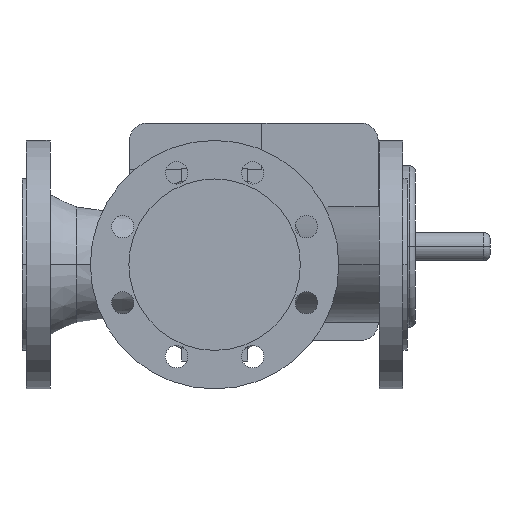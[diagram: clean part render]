
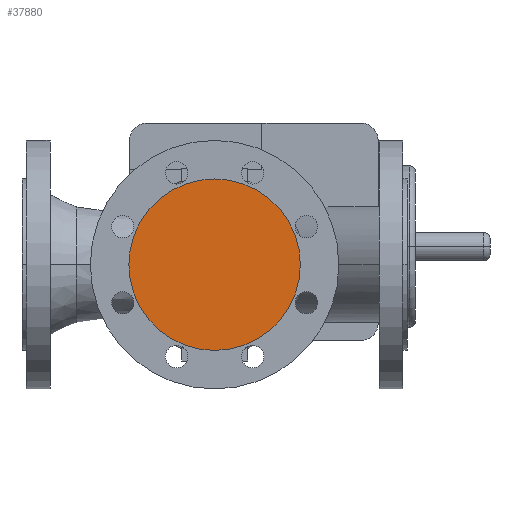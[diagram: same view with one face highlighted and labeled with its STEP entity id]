
A CAD part, front view. The second image highlights one B-rep face of the part: STEP entity #37880.
In plain terms, the highlighted planar face has unit normal (0, -1, 0).
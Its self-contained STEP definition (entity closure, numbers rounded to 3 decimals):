
#3640=CARTESIAN_POINT('',(86.,-130.,0.));
#3650=VERTEX_POINT('',#3640);
#3810=CARTESIAN_POINT('',(224.,-130.,0.));
#3820=VERTEX_POINT('',#3810);
#3850=CARTESIAN_POINT('',(155.,-130.,0.));
#3860=DIRECTION('',(0.,1.,0.));
#3870=DIRECTION('',(1.,0.,0.));
#3880=AXIS2_PLACEMENT_3D('',#3850,#3860,#3870);
#3890=CIRCLE('',#3880,69.);
#3900=EDGE_CURVE('',#3650,#3820,#3890,.T.);
#37780=CARTESIAN_POINT('',(189.5,-130.,0.));
#37790=DIRECTION('',(0.,-1.,0.));
#37800=DIRECTION('',(-1.,0.,0.));
#37810=AXIS2_PLACEMENT_3D('',#37780,#37790,#37800);
#37820=PLANE('',#37810);
#37830=EDGE_CURVE('',#3820,#3650,#3890,.T.);
#37840=ORIENTED_EDGE('',*,*,#37830,.F.);
#37850=ORIENTED_EDGE('',*,*,#3900,.F.);
#37860=EDGE_LOOP('',(#37850,#37840));
#37870=FACE_OUTER_BOUND('',#37860,.T.);
#37880=ADVANCED_FACE('',(#37870),#37820,.T.);
